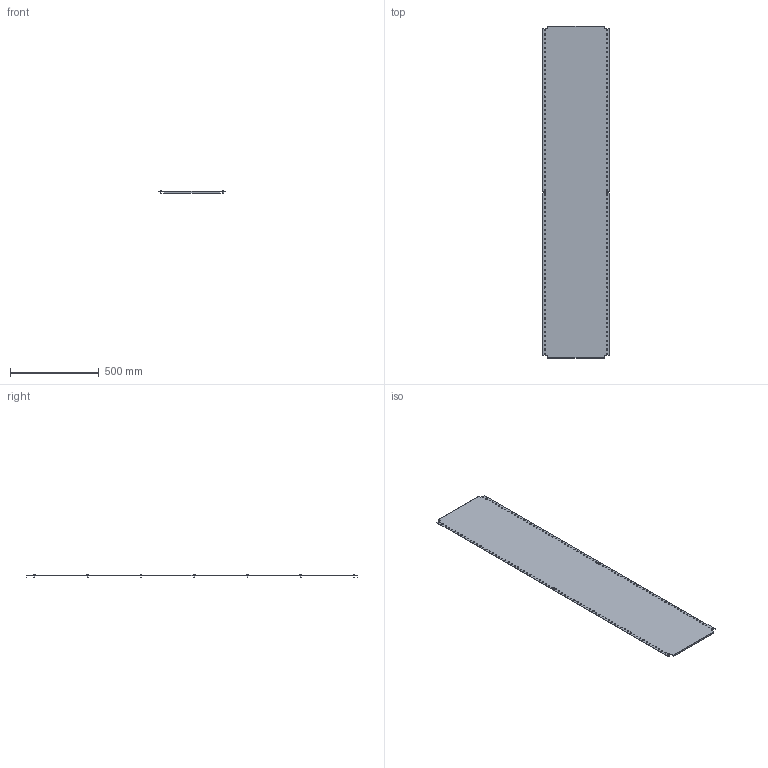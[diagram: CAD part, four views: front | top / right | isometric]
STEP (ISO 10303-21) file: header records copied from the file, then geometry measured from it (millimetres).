
FILE_DESCRIPTION (( 'STEP AP203' ), '1' );
FILE_NAME ('R6MP2045.STEP', '2025-03-28T12:12:23', ( '' ), ( '' ), 'SwSTEP 2.0', 'SolidWorks 2022', '' );
FILE_SCHEMA (( 'CONFIG_CONTROL_DESIGN' ));
Length unit declared in the file: millimetre
Products named in the file (3): R6MP2045; M5x12 DIN 7500 C Torx Zinc_stright; RB.3293.00.00.0_-26
Assembly tree (15 placements, depth 2):
  R6MP2045
    RB.3293.00.00.0_-26
    M5x12 DIN 7500 C Torx Zinc_stright  x14
Bounding box: 375 x 1870 x 15.56 mm (x, y, z)
Volume: 1265413.4 mm3; surface area: 1419100.7 mm2
Topology: 15 solids, 15 shells, 406 faces, 960 edges, 598 vertices
Faces by surface type: cylinder 180, plane 142, torus 28, cone 28, sphere 14, bspline 14
Full cylindrical faces by diameter (mm): 5 x14, 6.5 x148, 9.5 x14
Entity records: 7365 total; most frequent: CARTESIAN_POINT 1206, DIRECTION 1152, ORIENTED_EDGE 824, EDGE_LOOP 654, AXIS2_PLACEMENT_3D 532, EDGE_CURVE 412, VERTEX_POINT 374, FACE_OUTER_BOUND 352
